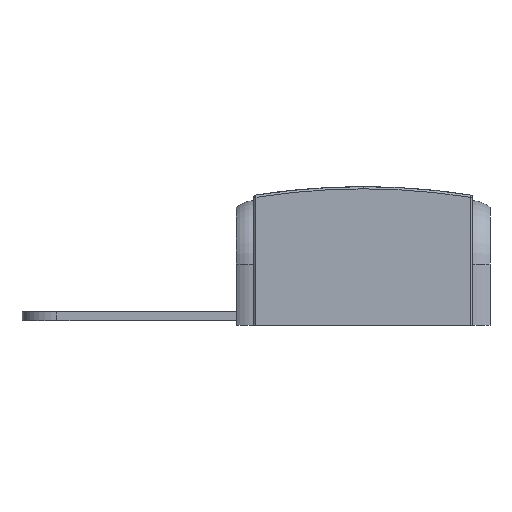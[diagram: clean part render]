
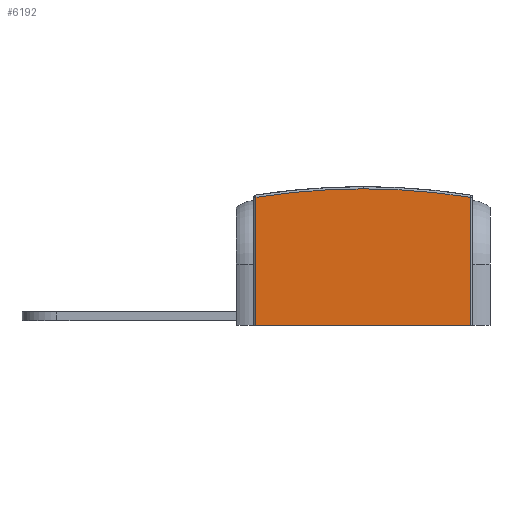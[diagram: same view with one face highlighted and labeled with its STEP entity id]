
A CAD part, front view. The second image highlights one B-rep face of the part: STEP entity #6192.
In plain terms, the highlighted planar face has unit normal (0, -1, 0).
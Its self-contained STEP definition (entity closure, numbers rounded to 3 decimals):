
#141 = FACE_OUTER_BOUND ( 'NONE', #7830, .T. ) ;
#357 = DIRECTION ( 'NONE',  ( 0., -1., 0. ) ) ;
#1005 = ORIENTED_EDGE ( 'NONE', *, *, #12730, .T. ) ;
#1607 = PLANE ( 'NONE',  #5490 ) ;
#1836 = CARTESIAN_POINT ( 'NONE',  ( 24.5, -26., 0. ) ) ;
#2429 = CARTESIAN_POINT ( 'NONE',  ( 0., -26., -125.6 ) ) ;
#2761 = CARTESIAN_POINT ( 'NONE',  ( 24.5, -26., 0. ) ) ;
#2873 = CARTESIAN_POINT ( 'NONE',  ( -24.5, -26., 31.7 ) ) ;
#3016 = CARTESIAN_POINT ( 'NONE',  ( 24.5, -26., 31.7 ) ) ;
#4606 = VERTEX_POINT ( 'NONE', #16734 ) ;
#4929 = VECTOR ( 'NONE', #9146, 1000. ) ;
#5411 = ORIENTED_EDGE ( 'NONE', *, *, #19766, .T. ) ;
#5490 = AXIS2_PLACEMENT_3D ( 'NONE', #11428, #11021, #9451 ) ;
#5928 = VERTEX_POINT ( 'NONE', #1836 ) ;
#5968 = DIRECTION ( 'NONE',  ( 0., 0., 1. ) ) ;
#6192 = ADVANCED_FACE ( 'NONE', ( #141 ), #1607, .F. ) ;
#6254 = DIRECTION ( 'NONE',  ( 0., 0., -1. ) ) ;
#6634 = DIRECTION ( 'NONE',  ( 0., 0., 1. ) ) ;
#7457 = VERTEX_POINT ( 'NONE', #17999 ) ;
#7539 = CARTESIAN_POINT ( 'NONE',  ( 0., -26., 31.2 ) ) ;
#7830 = EDGE_LOOP ( 'NONE', ( #10511, #5411, #10487, #1005, #9882 ) ) ;
#8239 = VECTOR ( 'NONE', #18820, 1000. ) ;
#9001 = DIRECTION ( 'NONE',  ( 0., -1., 0. ) ) ;
#9146 = DIRECTION ( 'NONE',  ( 0., 0., -1. ) ) ;
#9451 = DIRECTION ( 'NONE',  ( 0., 0., 1. ) ) ;
#9882 = ORIENTED_EDGE ( 'NONE', *, *, #14673, .T. ) ;
#10487 = ORIENTED_EDGE ( 'NONE', *, *, #12750, .T. ) ;
#10511 = ORIENTED_EDGE ( 'NONE', *, *, #20256, .F. ) ;
#11021 = DIRECTION ( 'NONE',  ( 0., 1., 0. ) ) ;
#11428 = CARTESIAN_POINT ( 'NONE',  ( 24.5, -26., 31.7 ) ) ;
#12730 = EDGE_CURVE ( 'NONE', #7457, #18978, #15665, .T. ) ;
#12750 = EDGE_CURVE ( 'NONE', #14089, #7457, #16658, .T. ) ;
#12805 = CARTESIAN_POINT ( 'NONE',  ( 0., -26., -125.6 ) ) ;
#13383 = AXIS2_PLACEMENT_3D ( 'NONE', #2429, #9001, #5968 ) ;
#14089 = VERTEX_POINT ( 'NONE', #7539 ) ;
#14673 = EDGE_CURVE ( 'NONE', #18978, #5928, #15751, .T. ) ;
#15519 = CARTESIAN_POINT ( 'NONE',  ( -24.5, -26., 0. ) ) ;
#15646 = AXIS2_PLACEMENT_3D ( 'NONE', #12805, #357, #6634 ) ;
#15665 = LINE ( 'NONE', #2873, #4929 ) ;
#15751 = LINE ( 'NONE', #2761, #8239 ) ;
#16658 = CIRCLE ( 'NONE', #15646, 156.8 ) ;
#16734 = CARTESIAN_POINT ( 'NONE',  ( 24.5, -26., 29.274 ) ) ;
#17093 = VECTOR ( 'NONE', #6254, 1000. ) ;
#17386 = LINE ( 'NONE', #3016, #17093 ) ;
#17999 = CARTESIAN_POINT ( 'NONE',  ( -24.5, -26., 29.274 ) ) ;
#18820 = DIRECTION ( 'NONE',  ( 1., 0., 0. ) ) ;
#18978 = VERTEX_POINT ( 'NONE', #15519 ) ;
#19766 = EDGE_CURVE ( 'NONE', #4606, #14089, #19773, .T. ) ;
#19773 = CIRCLE ( 'NONE', #13383, 156.8 ) ;
#20256 = EDGE_CURVE ( 'NONE', #4606, #5928, #17386, .T. ) ;
